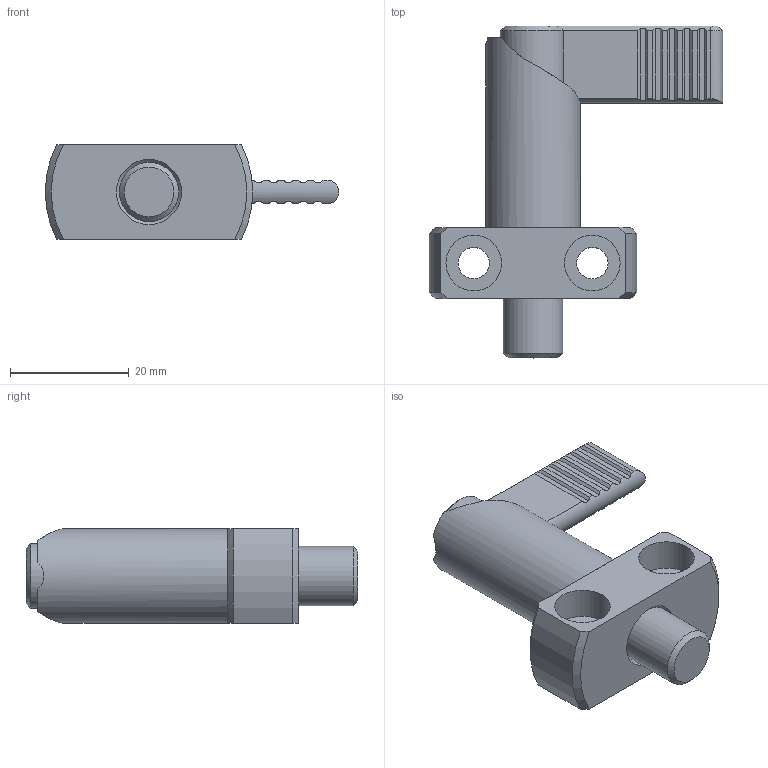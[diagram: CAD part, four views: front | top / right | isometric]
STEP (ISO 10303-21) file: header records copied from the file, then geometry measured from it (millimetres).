
FILE_DESCRIPTION( ( 'STEP AP203' ), '1' );
FILE_NAME( 'C:/Temp/Ganter_Step_05_03_2020/data/3_1/gn612_2/Indexing plunger GN 612.2-10-16-A (deactivated).stp', '2020-03-12T08:35:06', ( 'License CC BY-ND 4.0' ), ( 'CADENAS' ), ' ', 'PARTsolutions', ' ' );
FILE_SCHEMA( ( 'CONFIG_CONTROL_DESIGN' ) );
Length unit declared in the file: millimetre
Products named in the file (3): Indexing plunger GN 612.2-10-16-A (deactivated); _Rastriegel GN 612.2-10-16-A (unbetaetigt)-a; _Rastriegel GN 612.2-10-16-A (unbetaetigt)-b
Assembly tree (2 placements, depth 2):
  Indexing plunger GN 612.2-10-16-A (deactivated)
    _Rastriegel GN 612.2-10-16-A (unbetaetigt)-a
    _Rastriegel GN 612.2-10-16-A (unbetaetigt)-b
Bounding box: 49.5 x 56 x 16 mm (x, y, z)
Volume: 12195.8 mm3; surface area: 8105 mm2
Topology: 2 solids, 2 shells, 103 faces, 257 edges, 167 vertices
Faces by surface type: plane 63, cylinder 29, cone 10, torus 1
Full cylindrical faces by diameter (mm): 5.3 x2, 6 x2, 7.4 x1, 7.6 x1, 9.4 x4, 10 x2, 11 x1, 12 x1, 16 x1
Entity records: 3278 total; most frequent: CARTESIAN_POINT 792, DIRECTION 482, ORIENTED_EDGE 472, EDGE_CURVE 236, AXIS2_PLACEMENT_3D 175, VERTEX_POINT 165, EDGE_LOOP 137, LINE 132
